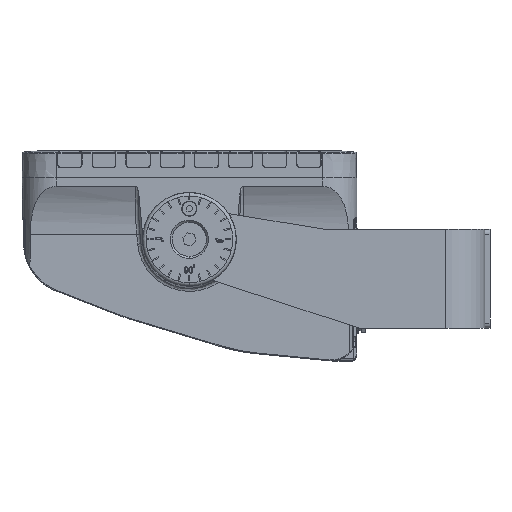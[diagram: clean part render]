
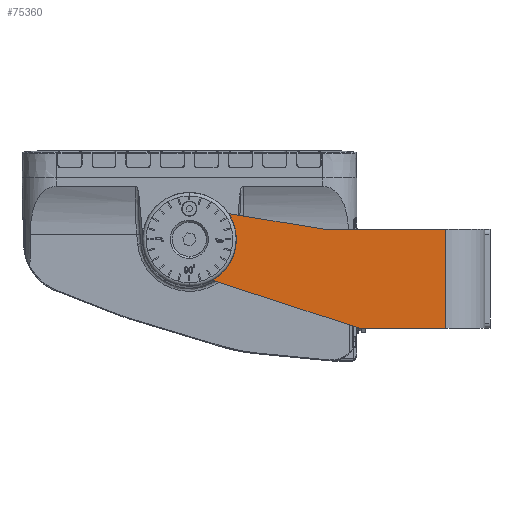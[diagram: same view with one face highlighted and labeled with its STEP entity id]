
A CAD part, left-side view. The second image highlights one B-rep face of the part: STEP entity #75360.
In plain terms, the highlighted planar face has unit normal (-1, 0, 0).
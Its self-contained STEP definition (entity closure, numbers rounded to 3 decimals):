
#1909 = DIRECTION ( 'NONE',  ( -1., 0., 0. ) ) ;
#2824 = PLANE ( 'NONE',  #11082 ) ;
#6951 = VERTEX_POINT ( 'NONE', #20953 ) ;
#8844 = VERTEX_POINT ( 'NONE', #28263 ) ;
#9933 = CIRCLE ( 'NONE', #47304, 20.5 ) ;
#11082 = AXIS2_PLACEMENT_3D ( 'NONE', #68896, #12132, #60862 ) ;
#11224 = CARTESIAN_POINT ( 'NONE',  ( -193., 173., 23. ) ) ;
#12051 = ORIENTED_EDGE ( 'NONE', *, *, #85157, .F. ) ;
#12132 = DIRECTION ( 'NONE',  ( 1., 0., 0. ) ) ;
#12631 = VERTEX_POINT ( 'NONE', #30230 ) ;
#16568 = DIRECTION ( 'NONE',  ( -1., 0., 0. ) ) ;
#17875 = VECTOR ( 'NONE', #38785, 1000. ) ;
#18447 = LINE ( 'NONE', #94906, #118630 ) ;
#19839 = EDGE_CURVE ( 'NONE', #111982, #109721, #46438, .T. ) ;
#20953 = CARTESIAN_POINT ( 'NONE',  ( -193., 160.126, -0.733 ) ) ;
#22127 = CARTESIAN_POINT ( 'NONE',  ( -193., 94.5, 29. ) ) ;
#22882 = AXIS2_PLACEMENT_3D ( 'NONE', #117229, #51196, #69741 ) ;
#23919 = EDGE_CURVE ( 'NONE', #105854, #12631, #9933, .T. ) ;
#25709 = VERTEX_POINT ( 'NONE', #22127 ) ;
#26086 = DIRECTION ( 'NONE',  ( 0., 0., -1. ) ) ;
#27315 = ORIENTED_EDGE ( 'NONE', *, *, #74209, .T. ) ;
#27397 = DIRECTION ( 'NONE',  ( 0., 0., -1. ) ) ;
#28255 = CARTESIAN_POINT ( 'NONE',  ( -193., 150.663, 38.168 ) ) ;
#28263 = CARTESIAN_POINT ( 'NONE',  ( -193., 23., -29. ) ) ;
#28400 = CARTESIAN_POINT ( 'NONE',  ( -193., 173., 23. ) ) ;
#29011 = DIRECTION ( 'NONE',  ( -1., 0., 0. ) ) ;
#29615 = CARTESIAN_POINT ( 'NONE',  ( -193., 188.265, 20.308 ) ) ;
#30230 = CARTESIAN_POINT ( 'NONE',  ( -193., 193.189, 19.44 ) ) ;
#32849 = ORIENTED_EDGE ( 'NONE', *, *, #91170, .F. ) ;
#33177 = ORIENTED_EDGE ( 'NONE', *, *, #98272, .F. ) ;
#34069 = LINE ( 'NONE', #56829, #78817 ) ;
#34113 = CARTESIAN_POINT ( 'NONE',  ( -193., 173., 23. ) ) ;
#35618 = CARTESIAN_POINT ( 'NONE',  ( -193., -1., -29. ) ) ;
#36410 = ORIENTED_EDGE ( 'NONE', *, *, #64242, .F. ) ;
#38785 = DIRECTION ( 'NONE',  ( 0., -1., 0. ) ) ;
#39283 = FACE_BOUND ( 'NONE', #97577, .T. ) ;
#39587 = DIRECTION ( 'NONE',  ( 0., 0., -1. ) ) ;
#39601 = CIRCLE ( 'NONE', #55393, 2.5 ) ;
#39759 = ORIENTED_EDGE ( 'NONE', *, *, #100320, .F. ) ;
#40254 = CARTESIAN_POINT ( 'NONE',  ( -193., 73.5, -29. ) ) ;
#40734 = AXIS2_PLACEMENT_3D ( 'NONE', #115732, #50922, #51552 ) ;
#41157 = CARTESIAN_POINT ( 'NONE',  ( -193., 167.85, 23. ) ) ;
#43966 = EDGE_CURVE ( 'NONE', #57152, #56566, #64487, .T. ) ;
#44923 = ORIENTED_EDGE ( 'NONE', *, *, #79210, .F. ) ;
#46153 = EDGE_LOOP ( 'NONE', ( #105662, #12051, #27315, #74461, #44923, #33177 ) ) ;
#46438 = CIRCLE ( 'NONE', #101585, 15.5 ) ;
#47304 = AXIS2_PLACEMENT_3D ( 'NONE', #11224, #1909, #39587 ) ;
#48633 = CARTESIAN_POINT ( 'NONE',  ( -193., 94.5, 29. ) ) ;
#50922 = DIRECTION ( 'NONE',  ( -1., 0., 0. ) ) ;
#51196 = DIRECTION ( 'NONE',  ( -1., 0., 0. ) ) ;
#51368 = VECTOR ( 'NONE', #55181, 1000. ) ;
#51552 = DIRECTION ( 'NONE',  ( 0., 0., -1. ) ) ;
#54488 = EDGE_LOOP ( 'NONE', ( #36410, #95122 ) ) ;
#54581 = LINE ( 'NONE', #63239, #51368 ) ;
#55181 = DIRECTION ( 'NONE',  ( 0., -0.987, -0.161 ) ) ;
#55393 = AXIS2_PLACEMENT_3D ( 'NONE', #111328, #111932, #27397 ) ;
#56566 = VERTEX_POINT ( 'NONE', #41157 ) ;
#56829 = CARTESIAN_POINT ( 'NONE',  ( -193., 23., 579.371 ) ) ;
#57152 = VERTEX_POINT ( 'NONE', #81014 ) ;
#57382 = DIRECTION ( 'NONE',  ( 0., 0., -1. ) ) ;
#59982 = AXIS2_PLACEMENT_3D ( 'NONE', #101676, #16568, #82575 ) ;
#60862 = DIRECTION ( 'NONE',  ( 0., 0., -1. ) ) ;
#60995 = ORIENTED_EDGE ( 'NONE', *, *, #23919, .F. ) ;
#62910 = CARTESIAN_POINT ( 'NONE',  ( -193., 157.296, 36.177 ) ) ;
#63239 = CARTESIAN_POINT ( 'NONE',  ( -193., 150.663, 38.168 ) ) ;
#64242 = EDGE_CURVE ( 'NONE', #56566, #57152, #101412, .T. ) ;
#64487 = CIRCLE ( 'NONE', #40734, 5.15 ) ;
#67749 = CARTESIAN_POINT ( 'NONE',  ( -193., 23., 29. ) ) ;
#68896 = CARTESIAN_POINT ( 'NONE',  ( -193., 200., 579.371 ) ) ;
#69741 = DIRECTION ( 'NONE',  ( 0., 0., -1. ) ) ;
#70119 = FACE_OUTER_BOUND ( 'NONE', #46153, .T. ) ;
#70621 = VECTOR ( 'NONE', #101622, 1000. ) ;
#74209 = EDGE_CURVE ( 'NONE', #99761, #6951, #107512, .T. ) ;
#74461 = ORIENTED_EDGE ( 'NONE', *, *, #118399, .F. ) ;
#75360 = ADVANCED_FACE ( 'NONE', ( #39283, #70119, #97262 ), #2824, .F. ) ;
#78817 = VECTOR ( 'NONE', #82807, 1000. ) ;
#79210 = EDGE_CURVE ( 'NONE', #8844, #86712, #92975, .T. ) ;
#81014 = CARTESIAN_POINT ( 'NONE',  ( -193., 178.15, 23. ) ) ;
#82227 = DIRECTION ( 'NONE',  ( -1., 0., 0. ) ) ;
#82290 = ORIENTED_EDGE ( 'NONE', *, *, #19839, .T. ) ;
#82496 = EDGE_CURVE ( 'NONE', #25709, #101885, #94944, .T. ) ;
#82575 = DIRECTION ( 'NONE',  ( 0., 0., -1. ) ) ;
#82807 = DIRECTION ( 'NONE',  ( 0., 0., -1. ) ) ;
#84438 = DIRECTION ( 'NONE',  ( 0., 0.951, 0.31 ) ) ;
#85157 = EDGE_CURVE ( 'NONE', #99761, #25709, #54581, .T. ) ;
#86712 = VERTEX_POINT ( 'NONE', #40254 ) ;
#87528 = CARTESIAN_POINT ( 'NONE',  ( -193., 161.126, 32.963 ) ) ;
#91170 = EDGE_CURVE ( 'NONE', #12631, #109721, #99985, .T. ) ;
#91791 = AXIS2_PLACEMENT_3D ( 'NONE', #34113, #82227, #26086 ) ;
#92975 = LINE ( 'NONE', #35618, #70621 ) ;
#94906 = CARTESIAN_POINT ( 'NONE',  ( -193., 73.5, -29. ) ) ;
#94944 = LINE ( 'NONE', #48633, #17875 ) ;
#95122 = ORIENTED_EDGE ( 'NONE', *, *, #43966, .F. ) ;
#97262 = FACE_BOUND ( 'NONE', #54488, .T. ) ;
#97577 = EDGE_LOOP ( 'NONE', ( #39759, #82290, #32849, #60995 ) ) ;
#98272 = EDGE_CURVE ( 'NONE', #101885, #8844, #34069, .T. ) ;
#99761 = VERTEX_POINT ( 'NONE', #28255 ) ;
#99985 = CIRCLE ( 'NONE', #22882, 2.5 ) ;
#100320 = EDGE_CURVE ( 'NONE', #111982, #105854, #39601, .T. ) ;
#101412 = CIRCLE ( 'NONE', #59982, 5.15 ) ;
#101585 = AXIS2_PLACEMENT_3D ( 'NONE', #28400, #29011, #57382 ) ;
#101622 = DIRECTION ( 'NONE',  ( 0., 1., 0. ) ) ;
#101676 = CARTESIAN_POINT ( 'NONE',  ( -193., 173., 23. ) ) ;
#101885 = VERTEX_POINT ( 'NONE', #67749 ) ;
#105662 = ORIENTED_EDGE ( 'NONE', *, *, #82496, .F. ) ;
#105854 = VERTEX_POINT ( 'NONE', #62910 ) ;
#107512 = CIRCLE ( 'NONE', #91791, 27. ) ;
#109721 = VERTEX_POINT ( 'NONE', #29615 ) ;
#111328 = CARTESIAN_POINT ( 'NONE',  ( -193., 159.211, 34.57 ) ) ;
#111932 = DIRECTION ( 'NONE',  ( -1., 0., 0. ) ) ;
#111982 = VERTEX_POINT ( 'NONE', #87528 ) ;
#115732 = CARTESIAN_POINT ( 'NONE',  ( -193., 173., 23. ) ) ;
#117229 = CARTESIAN_POINT ( 'NONE',  ( -193., 190.727, 19.874 ) ) ;
#118399 = EDGE_CURVE ( 'NONE', #86712, #6951, #18447, .T. ) ;
#118630 = VECTOR ( 'NONE', #84438, 1000. ) ;
